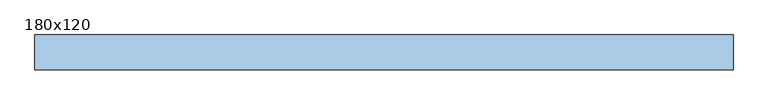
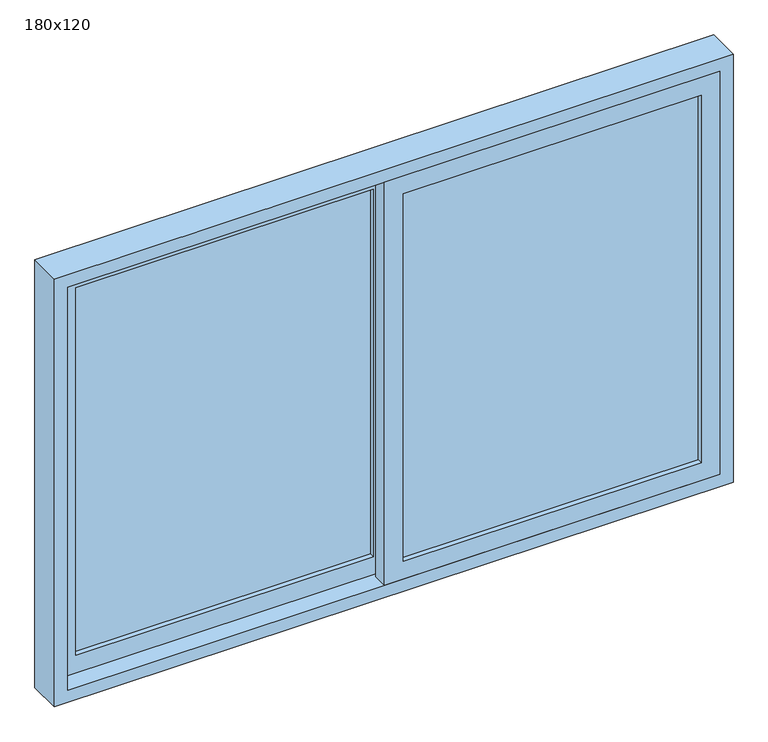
"""IFC4 building model written with IfcOpenShell, lengths in millimetres: window geometry, Janela de correr - 2 Painéis : 180x120."""

from ifc_helpers import new_model, si_unit, frame, origin, place, context, project, spatial, polyline, outline, extrude, source, transform, mapped, element, save


def window_180x120_e659ab7e(model_context):
    return source(origin(), model_context, "Body", "SweptSolid", [
        extrude(outline(polyline([(1815.0, -25.0), (685.0, -25.0), (685.0, 865.0), (1815.0, 865.0), (1815.0, -25.0)]), holes=[polyline([(735.0, 25.0), (1765.0, 25.0), (1765.0, 815.0), (735.0, 815.0), (735.0, 25.0)])]), frame((0.0, -20.0, 0.0), z_axis=(0.0, 1.0, 0.0), x_axis=(0.0, 0.0, 1.0)), (0.0, 0.0, 1.0), 40.0),
        extrude(outline(polyline([(685.0, 25.0), (1815.0, 25.0), (1815.0, -865.0), (685.0, -865.0), (685.0, 25.0)]), holes=[polyline([(1765.0, -25.0), (735.0, -25.0), (735.0, -815.0), (1765.0, -815.0), (1765.0, -25.0)])]), frame((0.0, 30.0, 0.0), z_axis=(0.0, 1.0, 0.0), x_axis=(0.0, 0.0, 1.0)), (0.0, 0.0, 1.0), 40.0),
        extrude(outline(polyline([(650.0, 900.0), (1850.0, 900.0), (1850.0, -900.0), (650.0, -900.0), (650.0, 900.0)]), holes=[polyline([(1815.0, 865.0), (685.0, 865.0), (685.0, -865.0), (1815.0, -865.0), (1815.0, 865.0)])]), frame((0.0, -20.0, 0.0), z_axis=(0.0, 1.0, 0.0), x_axis=(0.0, 0.0, 1.0)), (0.0, 0.0, 1.0), 90.0),
        extrude(outline(polyline([(25.0, -7.0), (25.0, 7.0), (815.0, 7.0), (815.0, -7.0), (25.0, -7.0)])), frame((0.0, 0.0, 735.0), z_axis=(0.0, 0.0, 1.0), x_axis=(1.0, 0.0, 0.0)), (0.0, 0.0, 1.0), 1030.0),
        extrude(outline(polyline([(-815.0, 43.0), (-815.0, 57.0), (-25.0, 57.0), (-25.0, 43.0), (-815.0, 43.0)])), frame((0.0, 0.0, 735.0), z_axis=(0.0, 0.0, 1.0), x_axis=(1.0, 0.0, 0.0)), (0.0, 0.0, 1.0), 1030.0),
    ])


if __name__ == "__main__":
    model = new_model("IFC4")
    model_context = context("Model", 3, world=origin())
    ifc_project = project(units=[si_unit("LENGTHUNIT", "METRE", prefix="MILLI")], contexts=[model_context])
    site = spatial("IfcSite", under=ifc_project)
    building = spatial("IfcBuilding", under=site)
    placement = place(None, origin())
    window_180x120_shape = window_180x120_e659ab7e(model_context)
    element("IfcWindow", 1, ObjectType="Janela de correr - 2 Painéis : 180x120", at=placement, inside=building, context=model_context, shape_type="MappedRepresentation", body=[
        mapped(window_180x120_shape, transform((0.0, 0.0, 0.0), x_axis=(1.0, 0.0, 0.0), y_axis=(0.0, 1.0, 0.0), z_axis=(0.0, 0.0, 1.0))),
    ])
    save(model, "model.ifc")
